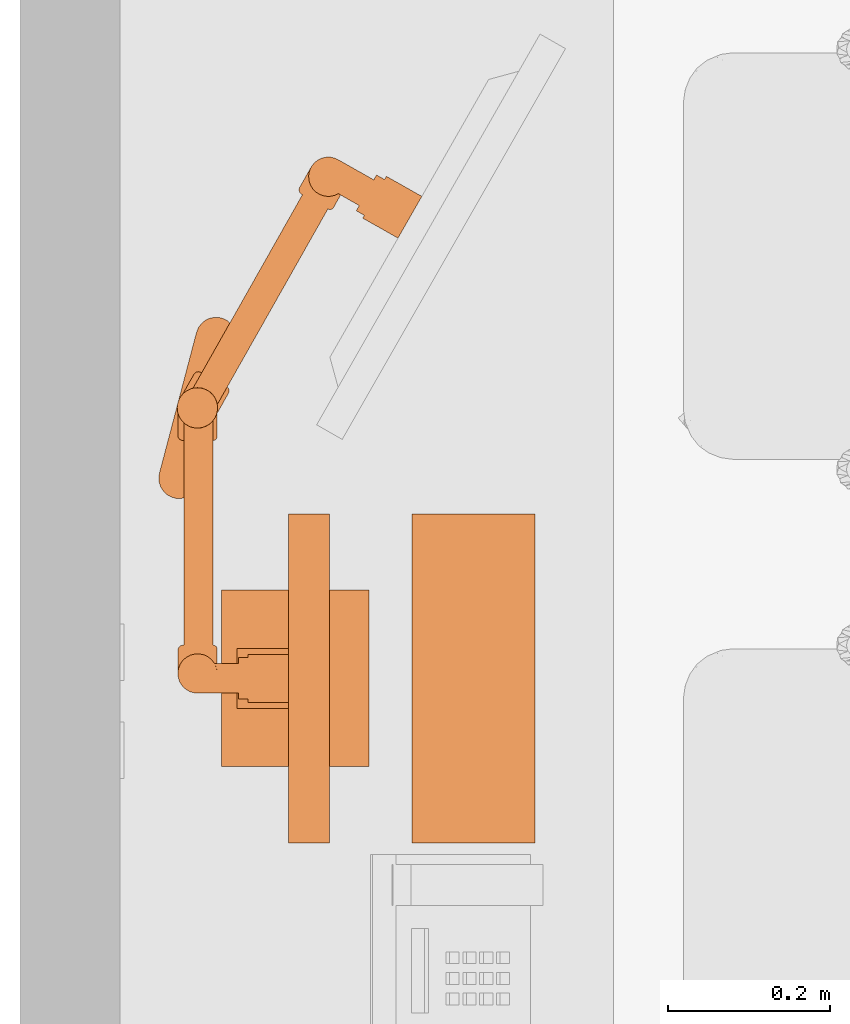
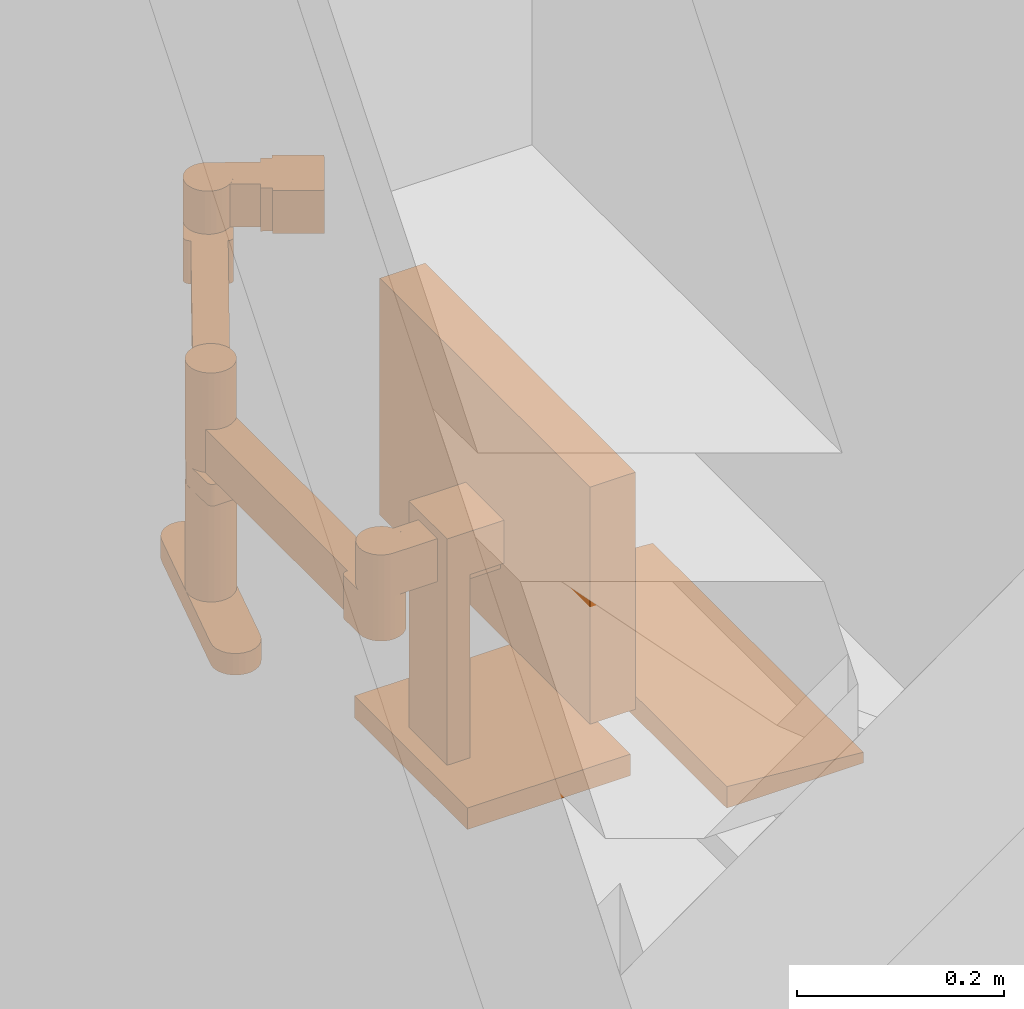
# One storey, part 7 of 15: 2 proxies.
"""IFC2X3 building model written with IfcOpenShell, lengths in feet."""

from ifc_helpers import new_model, entity, si_unit, converted_unit, derived_unit, direction, frame, frame_2d, origin, place, context, subcontext, project, spatial, polyline, circle_curve, parameter, trimmed, segment, composite_curve, circle, outline, extrude, faceted_brep, source, transform, mapped, type_object, type_shapes, element, save


model = new_model("IFC2X3")

# Units and contexts
model_context = context("Model", 3, precision=0.0001, world=origin(), true_north=direction((6.12303176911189e-17, 1.0)))
body_context = subcontext(model_context, "Body", "Model", "MODEL_VIEW")
ifc_project = project(units=[converted_unit("LENGTHUNIT", "FOOT", entity("IfcRatioMeasure", 0.3048), si_unit("LENGTHUNIT", "METRE"), dimensions=[1, 0, 0, 0, 0, 0, 0]), converted_unit("AREAUNIT", "SQUARE FOOT", entity("IfcRatioMeasure", 0.09290304), si_unit("AREAUNIT", "SQUARE_METRE"), dimensions=[2, 0, 0, 0, 0, 0, 0]), converted_unit("VOLUMEUNIT", "CUBIC FOOT", entity("IfcRatioMeasure", 0.028316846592), si_unit("VOLUMEUNIT", "CUBIC_METRE"), dimensions=[3, 0, 0, 0, 0, 0, 0]), converted_unit("PLANEANGLEUNIT", "DEGREE", entity("IfcRatioMeasure", 0.0174532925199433), si_unit("PLANEANGLEUNIT", "RADIAN"), dimensions=[0, 0, 0, 0, 0, 0, 0]), si_unit("MASSUNIT", "GRAM", prefix="KILO"), derived_unit("MASSDENSITYUNIT", [(si_unit("MASSUNIT", "GRAM", prefix="KILO"), 1), (si_unit("LENGTHUNIT", "METRE"), -3)]), si_unit("TIMEUNIT", "SECOND"), si_unit("FREQUENCYUNIT", "HERTZ"), si_unit("THERMODYNAMICTEMPERATUREUNIT", "DEGREE_CELSIUS"), derived_unit("THERMALTRANSMITTANCEUNIT", [(si_unit("MASSUNIT", "GRAM", prefix="KILO"), 1), (si_unit("THERMODYNAMICTEMPERATUREUNIT", "KELVIN"), -1), (si_unit("TIMEUNIT", "SECOND"), -3)]), derived_unit("VOLUMETRICFLOWRATEUNIT", [(si_unit("LENGTHUNIT", "METRE"), 3), (si_unit("TIMEUNIT", "SECOND"), -1)]), si_unit("ELECTRICCURRENTUNIT", "AMPERE"), si_unit("ELECTRICVOLTAGEUNIT", "VOLT"), si_unit("POWERUNIT", "WATT"), si_unit("FORCEUNIT", "NEWTON"), si_unit("ILLUMINANCEUNIT", "LUX"), si_unit("LUMINOUSFLUXUNIT", "LUMEN"), si_unit("LUMINOUSINTENSITYUNIT", "CANDELA"), derived_unit("USERDEFINED", [(si_unit("MASSUNIT", "GRAM", prefix="KILO"), -1), (si_unit("LENGTHUNIT", "METRE"), -2), (si_unit("TIMEUNIT", "SECOND"), 3), (si_unit("LUMINOUSFLUXUNIT", "LUMEN"), 1)]), derived_unit("LINEARVELOCITYUNIT", [(si_unit("LENGTHUNIT", "METRE"), 1), (si_unit("TIMEUNIT", "SECOND"), -1)]), si_unit("PRESSUREUNIT", "PASCAL"), derived_unit("USERDEFINED", [(si_unit("LENGTHUNIT", "METRE"), -2), (si_unit("MASSUNIT", "GRAM", prefix="KILO"), 1), (si_unit("TIMEUNIT", "SECOND"), -2)])], contexts=[model_context])

# Site, building, storey, space
site_placement = place(None, origin())
site = spatial("IfcSite", under=ifc_project, at=site_placement, Name="Default", CompositionType="ELEMENT")
building_placement = place(site_placement, origin())
building = spatial("IfcBuilding", under=site, at=building_placement, Name="EYE CLINIC:  OPTHALMOLOGY AND OPTOMETRY SERVICES (Ch. 233)", CompositionType="ELEMENT")
storey_placement = place(building_placement, origin())
storey = spatial("IfcBuildingStorey", under=building, at=storey_placement, Name="DATUM", CompositionType="ELEMENT", Elevation=0.0)
space_placement = place(storey_placement, origin())
space = spatial("IfcSpace", under=storey, at=space_placement, Name="(OPLV2)", CompositionType="ELEMENT", InteriorOrExteriorSpace="INTERNAL")

# Proxies
building_element_proxy_type_1 = type_object("IfcBuildingElementProxyType", Name="M1801 Computer", PredefinedType="NOTDEFINED")
shared_shape_1 = source(origin(), body_context, "Body", "Brep", [
    faceted_brep([(0.666666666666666, 0.437223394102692, 1.41666666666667), (-0.666666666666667, 0.437223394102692, 1.41666666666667), (-0.666666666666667, 0.271109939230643, 1.41666666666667), (0.666666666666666, 0.271109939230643, 1.41666666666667), (0.666666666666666, 0.437223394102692, 0.500000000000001), (0.666666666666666, 0.271109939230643, 0.500000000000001), (-0.666666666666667, 0.271109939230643, 0.500000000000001), (-0.666666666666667, 0.437223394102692, 0.500000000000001), (-0.625, 0.271109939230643, 1.375), (0.625, 0.271109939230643, 1.375), (0.625, 0.271109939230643, 0.541666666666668), (-0.625, 0.271109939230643, 0.541666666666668), (0.625, 0.286812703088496, 1.375), (-0.625, 0.286812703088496, 1.375), (0.625, 0.286812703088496, 0.541666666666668), (-0.625, 0.286812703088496, 0.541666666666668)], [[[0, 1, 2, 3]], [[4, 5, 6, 7]], [[1, 0, 4, 7]], [[2, 1, 7, 6]], [[3, 2, 6, 5], [8, 9, 10, 11]], [[0, 3, 5, 4]], [[12, 9, 8, 13]], [[14, 15, 11, 10]], [[12, 13, 15, 14]], [[13, 8, 11, 15]], [[9, 12, 14, 10]]]),
    faceted_brep([(0.358011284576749, 0.111770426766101, 0.0833333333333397), (0.358011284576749, 0.111770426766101, 0.0), (0.358011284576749, 0.708333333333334, 0.0), (0.358011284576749, 0.708333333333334, 0.0833333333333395), (-0.358011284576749, 0.708333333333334, 0.0833333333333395), (-0.358011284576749, 0.708333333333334, 0.0), (-0.358011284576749, 0.111770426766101, 0.0), (-0.358011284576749, 0.111770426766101, 0.0833333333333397), (0.12128795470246, 0.645556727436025, 0.104166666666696), (0.12128795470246, 0.645556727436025, 0.0833333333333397), (-0.12128795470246, 0.645556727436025, 0.0833333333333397), (-0.12128795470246, 0.645556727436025, 0.104166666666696), (0.12128795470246, 0.645556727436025, 0.958333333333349), (-0.12128795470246, 0.645556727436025, 0.958333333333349), (0.12128795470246, 0.437223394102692, 0.958333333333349), (-0.12128795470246, 0.437223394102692, 0.958333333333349), (0.12128795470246, 0.437223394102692, 0.791666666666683), (-0.12128795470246, 0.437223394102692, 0.791666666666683), (0.12128795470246, 0.562223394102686, 0.791666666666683), (-0.12128795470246, 0.562223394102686, 0.791666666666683), (0.12128795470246, 0.562223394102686, 0.0833333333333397), (-0.12128795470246, 0.562223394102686, 0.0833333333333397)], [[[0, 1, 2, 3]], [[4, 5, 6, 7]], [[8, 9, 10, 11]], [[12, 8, 11, 13]], [[14, 12, 13, 15]], [[16, 14, 15, 17]], [[18, 16, 17, 19]], [[20, 18, 19, 21]], [[0, 3, 4, 7], [9, 20, 21, 10]], [[1, 0, 7, 6]], [[2, 1, 6, 5]], [[3, 2, 5, 4]], [[20, 9, 8, 12, 14, 16, 18]], [[10, 21, 19, 17, 15, 13, 11]]]),
    faceted_brep([(0.666666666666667, -0.5625, 0.0), (0.666666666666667, -0.0624999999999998, 0.0), (0.666666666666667, -0.0624999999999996, 0.0833333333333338), (0.666666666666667, -0.5625, 0.0416666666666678), (-0.666666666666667, -0.5625, 0.0), (-0.666666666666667, -0.5625, 0.0416666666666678), (-0.666666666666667, -0.0624999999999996, 0.0833333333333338), (-0.666666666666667, -0.0624999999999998, 0.0)], [[[0, 1, 2, 3]], [[4, 5, 6, 7]], [[1, 0, 4, 7]], [[2, 1, 7, 6]], [[3, 2, 6, 5]], [[0, 3, 5, 4]]]),
])
type_shapes(building_element_proxy_type_1, [shared_shape_1])
proxy_1_placement = place(space_placement, frame((335.92631123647, 0.848198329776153, 2.99921907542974), z_axis=(0.0, 0.0, 1.0), x_axis=(0.0, 1.0, 0.0)))
element("IfcBuildingElementProxy", 1, at=proxy_1_placement, inside=space, type_object=building_element_proxy_type_1, Name="M1801 - Computer, Microprocessing, With Flat Panel Monitor:M1801 Computer", ObjectType="M1801 Computer", context=body_context, shape_type="MappedRepresentation", body=[
    mapped(shared_shape_1, transform((0.0, 0.0, 0.0), scale=1.0)),
])
building_element_proxy_type_2 = type_object("IfcBuildingElementProxyType", Name="A5225 - Dual  Flat Panel Monitor ARMS", PredefinedType="NOTDEFINED")
shared_shape_2 = source(origin(), body_context, "Body", "SweptSolid", [
    extrude(outline(composite_curve([segment(trimmed(circle_curve(frame_2d((-0.790855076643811, -0.00490841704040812), x_axis=(0.254554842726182, -0.967058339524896)), 0.0820209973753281), [parameter(25.1937534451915)], [parameter(117.785704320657)], True, "PARAMETER"), False, "CONTINUOUS"), segment(polyline([(-0.738197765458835, -0.0677944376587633), (0.171197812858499, -0.0677944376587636)]), True, "CONTINUOUS"), segment(trimmed(circle_curve(frame_2d((0.188411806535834, -0.0675795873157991), x_axis=(0.254554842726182, -0.967058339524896)), 0.0172153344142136), [parameter(255.967870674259)], [parameter(345.252790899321)], True, "PARAMETER"), True, "CONTINUOUS"), segment(polyline([(0.188411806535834, -0.0847949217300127), (0.288518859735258, -0.0847949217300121)]), True, "CONTINUOUS"), segment(trimmed(circle_curve(frame_2d((0.286061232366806, -0.0049273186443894), x_axis=(0.254554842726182, -0.967058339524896)), 0.0799054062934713), [parameter(347.01529850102)], [parameter(165.252790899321)], True, "PARAMETER"), True, "CONTINUOUS"), segment(polyline([(0.286061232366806, 0.0749780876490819), (0.192029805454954, 0.0749780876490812)]), True, "CONTINUOUS"), segment(trimmed(circle_curve(frame_2d((0.192029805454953, 0.0541447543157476), x_axis=(0.254554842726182, -0.967058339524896)), 0.0208333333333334), [parameter(165.252790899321)], [parameter(255.252790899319)], True, "PARAMETER"), True, "CONTINUOUS"), segment(polyline([(0.17119647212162, 0.0541447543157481), (0.17119647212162, 0.0505388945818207)]), True, "CONTINUOUS"), segment(polyline([(0.17119647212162, 0.0505388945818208), (-0.730414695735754, 0.0505388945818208)]), True, "CONTINUOUS")], self_intersect=False)), frame((-0.766443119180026, 0.426874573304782, 0.588770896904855), z_axis=(0.0, 0.0, -1.0), x_axis=(-0.967058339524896, -0.25455484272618, 0.0)), (0.0, 0.0, -1.0), 0.166666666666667),
    extrude(outline(composite_curve([segment(trimmed(circle_curve(frame_2d((-0.0257333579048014, -0.00677368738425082), x_axis=(1.0, 0.0)), 0.0799054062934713), [parameter(194.747209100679)], [parameter(12.9847014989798)], True, "PARAMETER"), True, "CONTINUOUS"), segment(polyline([(0.0521288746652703, 0.0111803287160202), (0.0508776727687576, 0.015933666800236)]), True, "CONTINUOUS"), segment(trimmed(circle_curve(frame_2d((-0.0257333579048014, -0.00677368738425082), x_axis=(1.0, 0.0)), 0.0799054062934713), [parameter(16.5097167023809)], [parameter(194.747209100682)], True, "PARAMETER"), True, "CONTINUOUS")], self_intersect=False)), frame((-1.03505305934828, 0.323557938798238, 0.755437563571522), z_axis=(0.0, 0.0, 1.0), x_axis=(0.0, -1.0, 0.0)), (0.0, 0.0, 1.0), 0.166666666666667),
    extrude(outline(composite_curve([segment(trimmed(circle_curve(frame_2d((0.0724992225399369, 0.012189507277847), x_axis=(1.0, 0.0)), 0.059894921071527), [parameter(284.74720910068)], [parameter(104.747026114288)], True, "PARAMETER"), True, "CONTINUOUS"), segment(polyline([(0.0572528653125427, 0.0701114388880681), (-0.0376511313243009, 0.0451305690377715)]), True, "CONTINUOUS"), segment(trimmed(circle_curve(frame_2d((-0.0944490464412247, -0.0110732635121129), x_axis=(1.0, 0.0)), 0.0799054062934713), [parameter(16.5097167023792)], [parameter(44.6987824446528)], True, "PARAMETER"), False, "CONTINUOUS"), segment(polyline([(-0.0178380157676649, 0.0116340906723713), (-0.0165868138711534, 0.00688075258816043)]), True, "CONTINUOUS"), segment(trimmed(circle_curve(frame_2d((-0.0944490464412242, -0.0110732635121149), x_axis=(1.0, 0.0)), 0.0799054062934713), [parameter(285.628462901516)], [parameter(12.984701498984)], True, "PARAMETER"), False, "CONTINUOUS"), segment(polyline([(-0.0729226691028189, -0.0880244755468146), (0.087745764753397, -0.045732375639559)]), True, "CONTINUOUS")], self_intersect=False)), frame((-1.03075348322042, 0.254842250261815, 0.755437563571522), z_axis=(0.0, 0.0, 1.0), x_axis=(0.0, -1.0, 0.0)), (0.0, 0.0, 1.0), 0.166666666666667),
    extrude(outline(composite_curve([segment(polyline([(0.0602572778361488, -0.0554648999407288), (0.0827848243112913, -0.0554648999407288)]), True, "CONTINUOUS"), segment(polyline([(0.0827848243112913, -0.0554648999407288), (0.0827848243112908, -0.0179714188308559)]), True, "CONTINUOUS"), segment(polyline([(0.0827848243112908, -0.0179714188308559), (0.0978778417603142, -0.0179714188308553)]), True, "CONTINUOUS"), segment(polyline([(0.0978778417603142, -0.0179714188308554), (0.0978778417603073, 0.147303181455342)]), True, "CONTINUOUS"), segment(polyline([(0.0978778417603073, 0.147303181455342), (-0.0971477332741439, 0.146442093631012)]), True, "CONTINUOUS"), segment(polyline([(-0.0971477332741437, 0.146442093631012), (-0.0971477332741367, -0.0179714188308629)]), True, "CONTINUOUS"), segment(polyline([(-0.0971477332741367, -0.0179714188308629), (-0.0838818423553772, -0.0179714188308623)]), True, "CONTINUOUS"), segment(polyline([(-0.0838818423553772, -0.0179714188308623), (-0.0838818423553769, -0.0554648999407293)]), True, "CONTINUOUS"), segment(polyline([(-0.0838818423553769, -0.0554648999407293), (-0.0595234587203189, -0.0554648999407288)]), True, "CONTINUOUS"), segment(trimmed(circle_curve(frame_2d((0.000366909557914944, -0.0547264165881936), x_axis=(0.2545517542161, 0.967059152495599)), 0.059894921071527), [parameter(284.040571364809)], [parameter(105.453480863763)], True, "PARAMETER"), False, "CONTINUOUS")], self_intersect=False)), frame((-1.00427844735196, 0.129512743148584, 0.755437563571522), z_axis=(0.0, 0.0, 1.0), x_axis=(-0.9670591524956, -0.254551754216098, 0.0)), (0.0, 0.0, 1.0), 0.166666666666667),
    extrude(outline(composite_curve([segment(polyline([(-0.0382992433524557, -0.0723910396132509), (-0.0325648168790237, -0.0941765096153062)]), True, "CONTINUOUS"), segment(polyline([(-0.0325648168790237, -0.0941765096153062), (0.00369359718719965, -0.0846324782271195)]), True, "CONTINUOUS"), segment(polyline([(0.00369359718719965, -0.0846324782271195), (0.0075355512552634, -0.0992283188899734)]), True, "CONTINUOUS"), segment(polyline([(0.0075355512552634, -0.0992283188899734), (0.16736586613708, -0.0571573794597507)]), True, "CONTINUOUS"), segment(polyline([(0.16736586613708, -0.0571573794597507), (0.116889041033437, 0.131224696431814)]), True, "CONTINUOUS"), segment(polyline([(0.116889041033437, 0.131224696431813), (-0.0421085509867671, 0.0893729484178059)]), True, "CONTINUOUS"), segment(polyline([(-0.0421085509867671, 0.0893729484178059), (-0.0387316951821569, 0.0765440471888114)]), True, "CONTINUOUS"), segment(polyline([(-0.0387316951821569, 0.0765440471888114), (-0.0749901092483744, 0.0670000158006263)]), True, "CONTINUOUS"), segment(polyline([(-0.0749901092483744, 0.0670000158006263), (-0.0687896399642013, 0.0434440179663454)]), True, "CONTINUOUS"), segment(trimmed(circle_curve(frame_2d((-0.0528302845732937, -0.0142855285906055), x_axis=(1.0, 0.0)), 0.059894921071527), [parameter(284.040571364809)], [parameter(105.453480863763)], True, "PARAMETER"), False, "CONTINUOUS")], self_intersect=False)), frame((1.0034971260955, 0.129512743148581, 0.755437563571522), z_axis=(0.0, 0.0, -1.0), x_axis=(0.0, -1.0, 0.0)), (0.0, 0.0, -1.0), 0.166666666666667),
    extrude(outline(composite_curve([segment(polyline([(-0.0732138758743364, -0.0665619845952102), (0.0929275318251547, -0.0665619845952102)]), True, "CONTINUOUS"), segment(trimmed(circle_curve(frame_2d((0.0941564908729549, 0.0133339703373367), x_axis=(-0.967058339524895, -0.254554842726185)), 0.0799054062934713), [parameter(347.015298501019)], [parameter(74.3715370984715)], True, "PARAMETER"), False, "CONTINUOUS"), segment(polyline([(0.0142888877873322, 0.0108763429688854), (0.0142888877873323, 0.0157915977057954)]), True, "CONTINUOUS"), segment(trimmed(circle_curve(frame_2d((0.0941564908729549, 0.013333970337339), x_axis=(-0.967058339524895, -0.254554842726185)), 0.0799054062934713), [parameter(315.301217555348)], [parameter(343.490283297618)], True, "PARAMETER"), False, "CONTINUOUS"), segment(polyline([(0.0249226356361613, 0.0532281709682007), (-0.0732140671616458, 0.0532278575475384)]), True, "CONTINUOUS"), segment(trimmed(circle_curve(frame_2d((-0.0732138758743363, -0.00666706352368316), x_axis=(-0.967058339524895, -0.254554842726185)), 0.059894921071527), [parameter(255.252973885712)], [parameter(75.2527908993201)], True, "PARAMETER"), True, "CONTINUOUS")], self_intersect=False)), frame((1.02997216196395, 0.254842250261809, 0.755437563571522), z_axis=(0.0, 0.0, 1.0), x_axis=(0.254554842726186, 0.967058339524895, 0.0)), (0.0, 0.0, 1.0), 0.166666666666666),
    extrude(outline(composite_curve([segment(trimmed(circle_curve(frame_2d((-0.0257333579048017, 0.00677368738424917), x_axis=(1.0, 0.0)), 0.0799054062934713), [parameter(165.252790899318)], [parameter(343.490283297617)], True, "PARAMETER"), True, "CONTINUOUS"), segment(polyline([(0.0508776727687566, -0.01593366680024), (0.0521288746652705, -0.0111803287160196)]), True, "CONTINUOUS"), segment(trimmed(circle_curve(frame_2d((-0.0257333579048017, 0.00677368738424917), x_axis=(1.0, 0.0)), 0.0799054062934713), [parameter(347.015298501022)], [parameter(165.25279089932)], True, "PARAMETER"), True, "CONTINUOUS")], self_intersect=False)), frame((1.03427173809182, 0.323557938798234, 0.755437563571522), z_axis=(0.0, 0.0, 1.0), x_axis=(0.0, -1.0, 0.0)), (0.0, 0.0, 1.0), 0.166666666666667),
    extrude(circle(Radius=0.0820209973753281, at=frame_2d((-2.3534863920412e-31, 1.32489505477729e-16), x_axis=(1.0, 0.0))), frame((-0.000390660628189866, 0.624030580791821, 0.588770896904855), z_axis=(0.0, 0.0, 1.0), x_axis=(0.0, -1.0, 0.0)), (0.0, 0.0, 1.0), 0.385601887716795),
    extrude(outline(composite_curve([segment(polyline([(-0.234804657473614, 0.693488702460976), (-0.00529516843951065, -0.178421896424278)]), True, "CONTINUOUS"), segment(polyline([(-0.00529516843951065, -0.178421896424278), (-0.00878224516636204, -0.179339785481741)]), True, "CONTINUOUS"), segment(trimmed(circle_curve(frame_2d((-0.00347901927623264, -0.199486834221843), x_axis=(1.0, 0.0)), 0.0208333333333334), [parameter(104.747209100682)], [parameter(194.747209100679)], True, "PARAMETER"), True, "CONTINUOUS"), segment(polyline([(-0.0236260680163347, -0.204790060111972), (0.000310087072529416, -0.295723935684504)]), True, "CONTINUOUS"), segment(trimmed(circle_curve(frame_2d((0.0775832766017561, -0.275383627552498), x_axis=(1.0, 0.0)), 0.0799054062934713), [parameter(194.747209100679)], [parameter(12.9847014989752)], True, "PARAMETER"), True, "CONTINUOUS"), segment(polyline([(0.155445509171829, -0.257429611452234), (0.129962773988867, -0.160620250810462)]), True, "CONTINUOUS"), segment(trimmed(circle_curve(frame_2d((0.113314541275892, -0.16500249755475), x_axis=(1.0, 0.0)), 0.0172153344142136), [parameter(14.7472091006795)], [parameter(104.032129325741)], True, "PARAMETER"), True, "CONTINUOUS"), segment(polyline([(0.109140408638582, -0.148300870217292), (-0.122350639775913, 0.731137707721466)]), True, "CONTINUOUS"), segment(trimmed(circle_curve(frame_2d((-0.196569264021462, 0.76605245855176), x_axis=(1.0, 0.0)), 0.0820209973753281), [parameter(242.214295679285)], [parameter(334.806246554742)], True, "PARAMETER"), False, "CONTINUOUS")], self_intersect=False)), frame((0.765661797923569, 0.426874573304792, 0.588770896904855), z_axis=(0.0, 0.0, -1.0), x_axis=(0.0, -1.0, 0.0)), (0.0, 0.0, -1.0), 0.166666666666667),
    extrude(outline(composite_curve([segment(polyline([(-0.0275603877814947, -0.104702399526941), (0.104720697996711, -0.104702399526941)]), True, "CONTINUOUS"), segment(trimmed(circle_curve(frame_2d((0.104720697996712, -0.0838690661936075), x_axis=(0.254554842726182, 0.967058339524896)), 0.0208333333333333), [parameter(194.747209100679)], [parameter(284.74720910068)], True, "PARAMETER"), True, "CONTINUOUS"), segment(polyline([(0.125554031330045, -0.0838690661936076), (0.125554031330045, 0.0378552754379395)]), True, "CONTINUOUS"), segment(trimmed(circle_curve(frame_2d((0.108338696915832, 0.0378552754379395), x_axis=(0.254554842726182, 0.967058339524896)), 0.0172153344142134), [parameter(284.747209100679)], [parameter(14.7472091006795)], True, "PARAMETER"), True, "CONTINUOUS"), segment(polyline([(0.108338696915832, 0.0550706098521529), (0.0144960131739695, 0.055070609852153)]), True, "CONTINUOUS"), segment(polyline([(0.0144960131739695, 0.055070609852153), (-0.0671850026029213, 0.101273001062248)]), True, "CONTINUOUS"), segment(trimmed(circle_curve(frame_2d((-0.0756607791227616, 0.0862887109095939), x_axis=(0.254554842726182, 0.967058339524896)), 0.0172153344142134), [parameter(345.25279089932)], [parameter(75.2527908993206)], True, "PARAMETER"), True, "CONTINUOUS"), segment(polyline([(-0.0906450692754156, 0.0947644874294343), (-0.150574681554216, -0.0111848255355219)]), True, "CONTINUOUS"), segment(trimmed(circle_curve(frame_2d((-0.132441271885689, -0.0214418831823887), x_axis=(0.254554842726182, 0.967058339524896)), 0.0208333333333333), [parameter(75.2527908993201)], [parameter(165.25279089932)], True, "PARAMETER"), True, "CONTINUOUS"), segment(polyline([(-0.142698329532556, -0.0395752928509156), (-0.0275603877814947, -0.104702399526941)]), True, "CONTINUOUS")], self_intersect=False)), frame((-0.000390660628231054, 0.597782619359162, 0.505437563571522), z_axis=(0.0, 0.0, 1.0), x_axis=(-0.967058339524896, -0.254554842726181, 0.0)), (0.0, 0.0, 1.0), 0.083333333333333),
    extrude(circle(Radius=0.0820209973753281, at=frame_2d((-2.3534863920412e-31, 1.32489505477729e-16), x_axis=(1.0, 0.0))), frame((-0.000390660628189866, 0.623443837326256, 0.0887708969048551), z_axis=(0.0, 0.0, 1.0), x_axis=(0.0, -1.0, 0.0)), (0.0, 0.0, 1.0), 0.416666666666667),
    extrude(outline(composite_curve([segment(trimmed(circle_curve(frame_2d((0.0, -0.295275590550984), x_axis=(1.0, 0.0)), 0.0820209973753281), [parameter(180.0)], [parameter(360.0)], True, "PARAMETER"), True, "CONTINUOUS"), segment(polyline([(0.0820209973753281, -0.295275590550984), (0.0820209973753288, 0.295275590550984)]), True, "CONTINUOUS"), segment(trimmed(circle_curve(frame_2d((0.0, 0.295275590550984), x_axis=(1.0, 0.0)), 0.0820209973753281), [parameter(0.0)], [parameter(180.0)], True, "PARAMETER"), True, "CONTINUOUS"), segment(polyline([(-0.0820209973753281, 0.295275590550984), (-0.0820209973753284, -0.295275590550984)]), True, "CONTINUOUS")], self_intersect=False)), frame((-0.000390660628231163, 0.623443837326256, 0.00543756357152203), z_axis=(0.0, 0.0, 1.0), x_axis=(0.0, -1.0, 0.0)), (0.0, 0.0, 1.0), 0.083333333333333),
])
type_shapes(building_element_proxy_type_2, [shared_shape_2])
proxy_2_placement = place(space_placement, frame((335.723102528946, 1.78679235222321, 3.0), z_axis=(0.0, 0.0, 1.0), x_axis=(0.254551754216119, 0.967059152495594, 0.0)))
element("IfcBuildingElementProxy", 2, at=proxy_2_placement, inside=space, type_object=building_element_proxy_type_2, Name="A5225 - Dual Monitor Arms:A5225 - Dual  Flat Panel Monitor ARMS", ObjectType="A5225 - Dual  Flat Panel Monitor ARMS", context=body_context, shape_type="MappedRepresentation", body=[
    mapped(shared_shape_2, transform((0.0, 0.0, 0.0), scale=1.0)),
])

save(model, "model.ifc")
